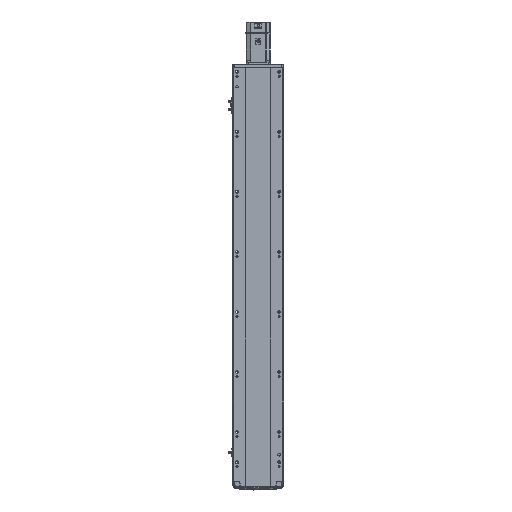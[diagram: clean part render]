
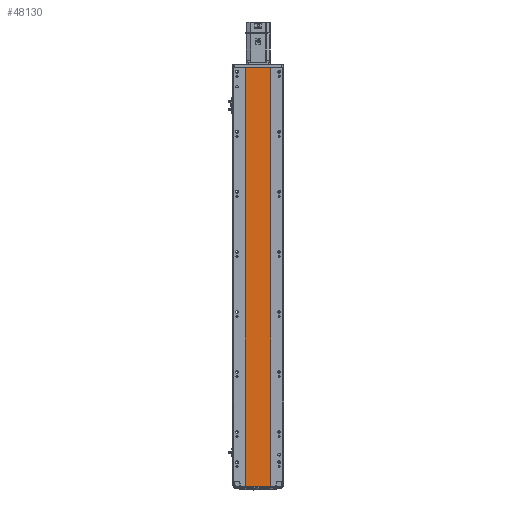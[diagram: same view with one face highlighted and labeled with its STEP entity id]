
A CAD part, front view. The second image highlights one B-rep face of the part: STEP entity #48130.
In plain terms, the highlighted planar face has unit normal (0, -1, 0).
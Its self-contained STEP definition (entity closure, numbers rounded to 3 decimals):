
#652 = VECTOR ( 'NONE', #40683, 1000. ) ;
#1781 = EDGE_LOOP ( 'NONE', ( #19394, #11330, #2959, #6878 ) ) ;
#2802 = EDGE_CURVE ( 'NONE', #53802, #15036, #37124, .T. ) ;
#2959 = ORIENTED_EDGE ( 'NONE', *, *, #42658, .F. ) ;
#4661 = VECTOR ( 'NONE', #21055, 1000. ) ;
#6878 = ORIENTED_EDGE ( 'NONE', *, *, #53254, .T. ) ;
#11330 = ORIENTED_EDGE ( 'NONE', *, *, #18888, .F. ) ;
#14799 = CARTESIAN_POINT ( 'NONE',  ( -41.791, 1., 1393.5 ) ) ;
#15036 = VERTEX_POINT ( 'NONE', #48733 ) ;
#15813 = DIRECTION ( 'NONE',  ( 0., 0., -1. ) ) ;
#16203 = CARTESIAN_POINT ( 'NONE',  ( -41.791, 1., 0. ) ) ;
#16814 = CARTESIAN_POINT ( 'NONE',  ( -41.791, 1., 1393.5 ) ) ;
#17214 = LINE ( 'NONE', #16814, #4661 ) ;
#18888 = EDGE_CURVE ( 'NONE', #19811, #15036, #41343, .T. ) ;
#19394 = ORIENTED_EDGE ( 'NONE', *, *, #2802, .T. ) ;
#19811 = VERTEX_POINT ( 'NONE', #53136 ) ;
#21055 = DIRECTION ( 'NONE',  ( 0., 0., -1. ) ) ;
#24539 = DIRECTION ( 'NONE',  ( 1., 0., 0. ) ) ;
#27446 = CARTESIAN_POINT ( 'NONE',  ( 0., 0.999, 1393.5 ) ) ;
#27613 = CARTESIAN_POINT ( 'NONE',  ( 41.793, 0.998, 1393.5 ) ) ;
#28476 = FACE_OUTER_BOUND ( 'NONE', #1781, .T. ) ;
#30059 = VECTOR ( 'NONE', #15813, 1000. ) ;
#33826 = VECTOR ( 'NONE', #24539, 1000. ) ;
#37124 = LINE ( 'NONE', #49809, #33826 ) ;
#40016 = DIRECTION ( 'NONE',  ( 0., 1., 0. ) ) ;
#40683 = DIRECTION ( 'NONE',  ( 1., 0., 0. ) ) ;
#41343 = LINE ( 'NONE', #27613, #30059 ) ;
#41632 = VERTEX_POINT ( 'NONE', #14799 ) ;
#42658 = EDGE_CURVE ( 'NONE', #41632, #19811, #46841, .T. ) ;
#44627 = DIRECTION ( 'NONE',  ( -1., 0., 0. ) ) ;
#45228 = AXIS2_PLACEMENT_3D ( 'NONE', #27446, #40016, #44627 ) ;
#46841 = LINE ( 'NONE', #53781, #652 ) ;
#48130 = ADVANCED_FACE ( 'NONE', ( #28476 ), #52903, .F. ) ;
#48733 = CARTESIAN_POINT ( 'NONE',  ( 41.793, 0.998, 0. ) ) ;
#49809 = CARTESIAN_POINT ( 'NONE',  ( 0., 0.999, 0. ) ) ;
#52903 = PLANE ( 'NONE',  #45228 ) ;
#53136 = CARTESIAN_POINT ( 'NONE',  ( 41.793, 0.998, 1393.5 ) ) ;
#53254 = EDGE_CURVE ( 'NONE', #41632, #53802, #17214, .T. ) ;
#53781 = CARTESIAN_POINT ( 'NONE',  ( 0., 0.999, 1393.5 ) ) ;
#53802 = VERTEX_POINT ( 'NONE', #16203 ) ;
